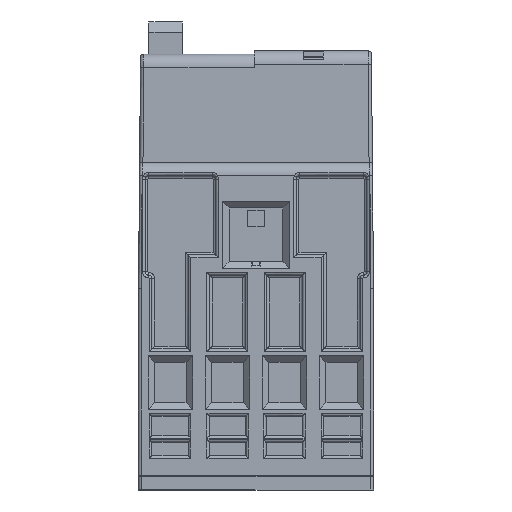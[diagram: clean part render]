
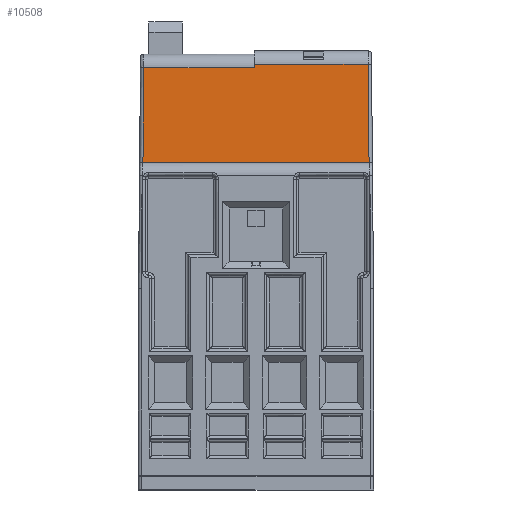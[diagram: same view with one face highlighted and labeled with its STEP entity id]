
A CAD part, front view. The second image highlights one B-rep face of the part: STEP entity #10508.
In plain terms, the highlighted planar face has unit normal (0, -1, 0.009).
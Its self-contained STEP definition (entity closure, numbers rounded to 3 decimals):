
#277 = ORIENTED_EDGE ( 'NONE', *, *, #26441, .T. ) ;
#1133 = LINE ( 'NONE', #34487, #40932 ) ;
#1997 = CARTESIAN_POINT ( 'NONE',  ( 0.787, 20.173, 62.917 ) ) ;
#4203 = ORIENTED_EDGE ( 'NONE', *, *, #21337, .T. ) ;
#5364 = DIRECTION ( 'NONE',  ( 1., 0., 0. ) ) ;
#5424 = EDGE_CURVE ( 'NONE', #19082, #30820, #23448, .T. ) ;
#5950 = CARTESIAN_POINT ( 'NONE',  ( -1.112, 20.178, 63.422 ) ) ;
#6984 = VECTOR ( 'NONE', #45599, 1000. ) ;
#8212 = ORIENTED_EDGE ( 'NONE', *, *, #34923, .T. ) ;
#8371 = ORIENTED_EDGE ( 'NONE', *, *, #41269, .F. ) ;
#9113 = PLANE ( 'NONE',  #12164 ) ;
#9926 = VERTEX_POINT ( 'NONE', #13039 ) ;
#10508 = ADVANCED_FACE ( 'NONE', ( #20440 ), #9113, .T. ) ;
#11129 = DIRECTION ( 'NONE',  ( 0., -0.009, -1. ) ) ;
#11592 = CARTESIAN_POINT ( 'NONE',  ( 17.25, 20.05, 48.8 ) ) ;
#12164 = AXIS2_PLACEMENT_3D ( 'NONE', #27571, #31609, #5364 ) ;
#13039 = CARTESIAN_POINT ( 'NONE',  ( 17.25, 20.173, 62.917 ) ) ;
#14904 = LINE ( 'NONE', #11592, #28736 ) ;
#15393 = CARTESIAN_POINT ( 'NONE',  ( 17.25, 20.173, 62.917 ) ) ;
#15647 = DIRECTION ( 'NONE',  ( 1., 0., 0. ) ) ;
#15890 = EDGE_CURVE ( 'NONE', #36672, #16180, #1133, .T. ) ;
#15893 = CARTESIAN_POINT ( 'NONE',  ( 0., 20.05, 48.8 ) ) ;
#16180 = VERTEX_POINT ( 'NONE', #1997 ) ;
#17640 = CARTESIAN_POINT ( 'NONE',  ( 0.664, 20.05, 48.8 ) ) ;
#19082 = VERTEX_POINT ( 'NONE', #24237 ) ;
#20440 = FACE_OUTER_BOUND ( 'NONE', #38660, .T. ) ;
#21337 = EDGE_CURVE ( 'NONE', #30820, #9926, #14904, .T. ) ;
#21361 = ORIENTED_EDGE ( 'NONE', *, *, #15890, .F. ) ;
#22735 = LINE ( 'NONE', #26540, #43511 ) ;
#23448 = LINE ( 'NONE', #5950, #6984 ) ;
#24237 = CARTESIAN_POINT ( 'NONE',  ( 34.208, 20.178, 63.422 ) ) ;
#25219 = VECTOR ( 'NONE', #29877, 1000. ) ;
#26441 = EDGE_CURVE ( 'NONE', #36672, #37215, #44407, .T. ) ;
#26540 = CARTESIAN_POINT ( 'NONE',  ( 34.208, 20.178, 63.422 ) ) ;
#26883 = DIRECTION ( 'NONE',  ( 0.009, 0.009, 1. ) ) ;
#27571 = CARTESIAN_POINT ( 'NONE',  ( -1.112, 20.05, 48.8 ) ) ;
#28543 = CARTESIAN_POINT ( 'NONE',  ( 17.25, 20.178, 63.422 ) ) ;
#28736 = VECTOR ( 'NONE', #11129, 1000. ) ;
#29368 = CARTESIAN_POINT ( 'NONE',  ( 34.336, 20.05, 48.8 ) ) ;
#29877 = DIRECTION ( 'NONE',  ( 1., 0., 0. ) ) ;
#30820 = VERTEX_POINT ( 'NONE', #28543 ) ;
#31560 = ORIENTED_EDGE ( 'NONE', *, *, #5424, .T. ) ;
#31609 = DIRECTION ( 'NONE',  ( 0., -1., 0.009 ) ) ;
#33426 = LINE ( 'NONE', #15393, #25219 ) ;
#34487 = CARTESIAN_POINT ( 'NONE',  ( 0.805, 20.191, 64.96 ) ) ;
#34923 = EDGE_CURVE ( 'NONE', #37215, #19082, #22735, .T. ) ;
#35555 = VECTOR ( 'NONE', #15647, 1000. ) ;
#36672 = VERTEX_POINT ( 'NONE', #17640 ) ;
#37215 = VERTEX_POINT ( 'NONE', #29368 ) ;
#38660 = EDGE_LOOP ( 'NONE', ( #21361, #277, #8212, #31560, #4203, #8371 ) ) ;
#40932 = VECTOR ( 'NONE', #26883, 1000. ) ;
#41033 = DIRECTION ( 'NONE',  ( -0.009, 0.009, 1. ) ) ;
#41269 = EDGE_CURVE ( 'NONE', #16180, #9926, #33426, .T. ) ;
#43511 = VECTOR ( 'NONE', #41033, 1000. ) ;
#44407 = LINE ( 'NONE', #15893, #35555 ) ;
#45599 = DIRECTION ( 'NONE',  ( -1., 0., 0. ) ) ;
